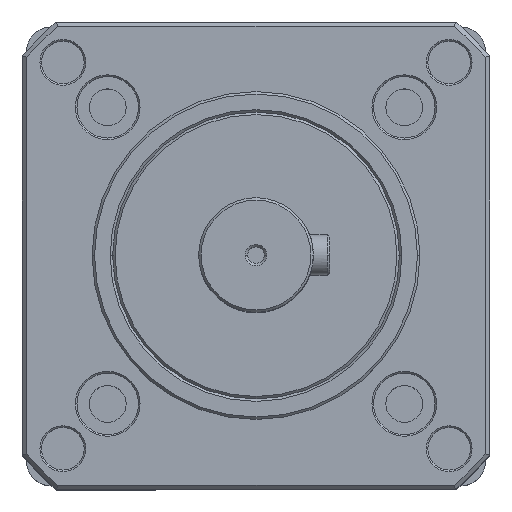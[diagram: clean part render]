
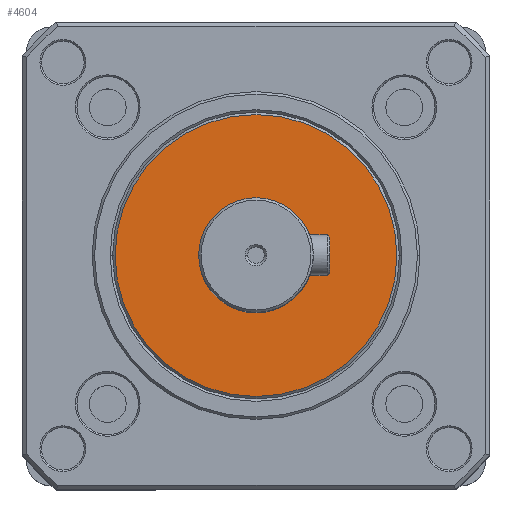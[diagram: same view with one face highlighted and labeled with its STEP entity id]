
A CAD part, top view. The second image highlights one B-rep face of the part: STEP entity #4604.
In plain terms, the highlighted planar face has unit normal (0, 0, 1).
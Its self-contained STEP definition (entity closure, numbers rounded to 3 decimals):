
#72 = CARTESIAN_POINT ( 'NONE',  ( -7., 0., 21. ) ) ;
#150 = CARTESIAN_POINT ( 'NONE',  ( 0., 0., 21. ) ) ;
#180 = DIRECTION ( 'NONE',  ( 0., 0., 1. ) ) ;
#218 = CARTESIAN_POINT ( 'NONE',  ( 7., 0., 21. ) ) ;
#956 = ORIENTED_EDGE ( 'NONE', *, *, #2274, .F. ) ;
#1236 = CIRCLE ( 'NONE', #7310, 17.2 ) ;
#1429 = EDGE_LOOP ( 'NONE', ( #956, #5971 ) ) ;
#1552 = DIRECTION ( 'NONE',  ( 1., 0., 0. ) ) ;
#1841 = CARTESIAN_POINT ( 'NONE',  ( 0., 0., 21. ) ) ;
#1955 = CIRCLE ( 'NONE', #5072, 17.2 ) ;
#2186 = CIRCLE ( 'NONE', #6584, 7. ) ;
#2274 = EDGE_CURVE ( 'NONE', #8267, #3647, #2186, .T. ) ;
#2939 = PLANE ( 'NONE',  #5654 ) ;
#2995 = VERTEX_POINT ( 'NONE', #5804 ) ;
#3140 = DIRECTION ( 'NONE',  ( 0., 0., 1. ) ) ;
#3585 = EDGE_CURVE ( 'NONE', #7137, #2995, #1236, .T. ) ;
#3633 = FACE_OUTER_BOUND ( 'NONE', #3896, .T. ) ;
#3636 = DIRECTION ( 'NONE',  ( 0., 0., 1. ) ) ;
#3647 = VERTEX_POINT ( 'NONE', #218 ) ;
#3827 = EDGE_CURVE ( 'NONE', #3647, #8267, #5662, .T. ) ;
#3896 = EDGE_LOOP ( 'NONE', ( #8794, #3951 ) ) ;
#3951 = ORIENTED_EDGE ( 'NONE', *, *, #3585, .T. ) ;
#4265 = DIRECTION ( 'NONE',  ( 1., 0., 0. ) ) ;
#4489 = EDGE_CURVE ( 'NONE', #2995, #7137, #1955, .T. ) ;
#4604 = ADVANCED_FACE ( 'NONE', ( #3633, #5991 ), #2939, .T. ) ;
#4679 = AXIS2_PLACEMENT_3D ( 'NONE', #1841, #3140, #7853 ) ;
#5072 = AXIS2_PLACEMENT_3D ( 'NONE', #150, #180, #1552 ) ;
#5654 = AXIS2_PLACEMENT_3D ( 'NONE', #5660, #3636, #4265 ) ;
#5660 = CARTESIAN_POINT ( 'NONE',  ( 0., 0., 21. ) ) ;
#5662 = CIRCLE ( 'NONE', #4679, 7. ) ;
#5804 = CARTESIAN_POINT ( 'NONE',  ( -17.2, 0., 21. ) ) ;
#5971 = ORIENTED_EDGE ( 'NONE', *, *, #3827, .F. ) ;
#5991 = FACE_BOUND ( 'NONE', #1429, .T. ) ;
#6271 = DIRECTION ( 'NONE',  ( 0., 0., 1. ) ) ;
#6306 = CARTESIAN_POINT ( 'NONE',  ( 0., 0., 21. ) ) ;
#6584 = AXIS2_PLACEMENT_3D ( 'NONE', #8775, #6798, #6770 ) ;
#6770 = DIRECTION ( 'NONE',  ( 1., 0., 0. ) ) ;
#6798 = DIRECTION ( 'NONE',  ( 0., 0., 1. ) ) ;
#6950 = DIRECTION ( 'NONE',  ( 1., 0., 0. ) ) ;
#7137 = VERTEX_POINT ( 'NONE', #8306 ) ;
#7310 = AXIS2_PLACEMENT_3D ( 'NONE', #6306, #6271, #6950 ) ;
#7853 = DIRECTION ( 'NONE',  ( 1., 0., 0. ) ) ;
#8267 = VERTEX_POINT ( 'NONE', #72 ) ;
#8306 = CARTESIAN_POINT ( 'NONE',  ( 17.2, 0., 21. ) ) ;
#8775 = CARTESIAN_POINT ( 'NONE',  ( 0., 0., 21. ) ) ;
#8794 = ORIENTED_EDGE ( 'NONE', *, *, #4489, .T. ) ;
